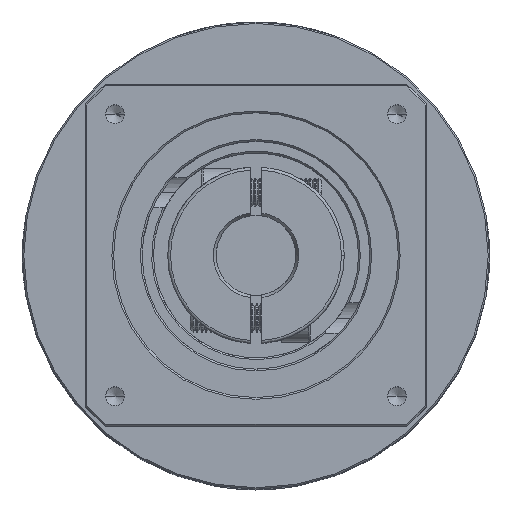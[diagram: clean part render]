
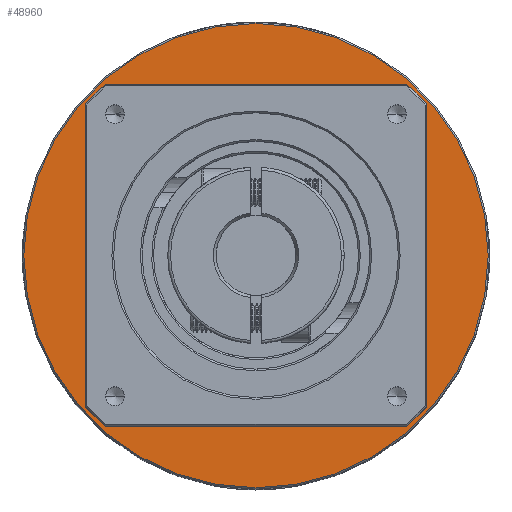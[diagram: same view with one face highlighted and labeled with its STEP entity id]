
A CAD part, top view. The second image highlights one B-rep face of the part: STEP entity #48960.
In plain terms, the highlighted planar face has unit normal (0, 0, 1).
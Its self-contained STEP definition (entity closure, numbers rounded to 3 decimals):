
#739 = VERTEX_POINT ( 'NONE', #34852 ) ;
#1611 = CARTESIAN_POINT ( 'NONE',  ( -59.66, 18.952, -4.364 ) ) ;
#3221 = DIRECTION ( 'NONE',  ( 0., 0., 1. ) ) ;
#4123 = DIRECTION ( 'NONE',  ( 0., 0., -1. ) ) ;
#10028 = VERTEX_POINT ( 'NONE', #67748 ) ;
#10560 = DIRECTION ( 'NONE',  ( -1., 0., 0. ) ) ;
#11105 = EDGE_LOOP ( 'NONE', ( #87520, #106900 ) ) ;
#15511 = AXIS2_PLACEMENT_3D ( 'NONE', #75572, #22297, #84517 ) ;
#16805 = VERTEX_POINT ( 'NONE', #36255 ) ;
#22297 = DIRECTION ( 'NONE',  ( 0., 0., -1. ) ) ;
#26607 = AXIS2_PLACEMENT_3D ( 'NONE', #1611, #63796, #10560 ) ;
#34852 = CARTESIAN_POINT ( 'NONE',  ( -29.66, 18.952, -4.364 ) ) ;
#35783 = CARTESIAN_POINT ( 'NONE',  ( -89.66, 18.952, -4.364 ) ) ;
#36255 = CARTESIAN_POINT ( 'NONE',  ( -18.91, 18.952, -4.364 ) ) ;
#40914 = CARTESIAN_POINT ( 'NONE',  ( -59.66, 18.952, -4.364 ) ) ;
#41355 = EDGE_CURVE ( 'NONE', #739, #49243, #106326, .T. ) ;
#43576 = FACE_OUTER_BOUND ( 'NONE', #111295, .T. ) ;
#46015 = ORIENTED_EDGE ( 'NONE', *, *, #76897, .F. ) ;
#48960 = ADVANCED_FACE ( 'NONE', ( #43576, #67243 ), #74044, .T. ) ;
#49243 = VERTEX_POINT ( 'NONE', #35783 ) ;
#49845 = DIRECTION ( 'NONE',  ( -1., 0., 0. ) ) ;
#56434 = CARTESIAN_POINT ( 'NONE',  ( -59.66, 18.952, -4.364 ) ) ;
#57332 = CARTESIAN_POINT ( 'NONE',  ( -59.66, 18.952, -4.364 ) ) ;
#63796 = DIRECTION ( 'NONE',  ( 0., 0., -1. ) ) ;
#65428 = DIRECTION ( 'NONE',  ( 1., 0., 0. ) ) ;
#66307 = DIRECTION ( 'NONE',  ( -1., 0., 0. ) ) ;
#67243 = FACE_BOUND ( 'NONE', #11105, .T. ) ;
#67748 = CARTESIAN_POINT ( 'NONE',  ( -100.41, 18.952, -4.364 ) ) ;
#74044 = PLANE ( 'NONE',  #101216 ) ;
#74772 = CIRCLE ( 'NONE', #15511, 30. ) ;
#75572 = CARTESIAN_POINT ( 'NONE',  ( -59.66, 18.952, -4.364 ) ) ;
#76897 = EDGE_CURVE ( 'NONE', #16805, #10028, #98888, .T. ) ;
#81037 = EDGE_CURVE ( 'NONE', #10028, #16805, #92098, .T. ) ;
#84517 = DIRECTION ( 'NONE',  ( -1., 0., 0. ) ) ;
#86403 = AXIS2_PLACEMENT_3D ( 'NONE', #57332, #4123, #66307 ) ;
#87520 = ORIENTED_EDGE ( 'NONE', *, *, #111887, .T. ) ;
#92098 = CIRCLE ( 'NONE', #26607, 40.75 ) ;
#96888 = ORIENTED_EDGE ( 'NONE', *, *, #81037, .F. ) ;
#98888 = CIRCLE ( 'NONE', #86403, 40.75 ) ;
#101216 = AXIS2_PLACEMENT_3D ( 'NONE', #56434, #3221, #65428 ) ;
#103214 = DIRECTION ( 'NONE',  ( 0., 0., -1. ) ) ;
#106326 = CIRCLE ( 'NONE', #109158, 30. ) ;
#106900 = ORIENTED_EDGE ( 'NONE', *, *, #41355, .T. ) ;
#109158 = AXIS2_PLACEMENT_3D ( 'NONE', #40914, #103214, #49845 ) ;
#111295 = EDGE_LOOP ( 'NONE', ( #96888, #46015 ) ) ;
#111887 = EDGE_CURVE ( 'NONE', #49243, #739, #74772, .T. ) ;
